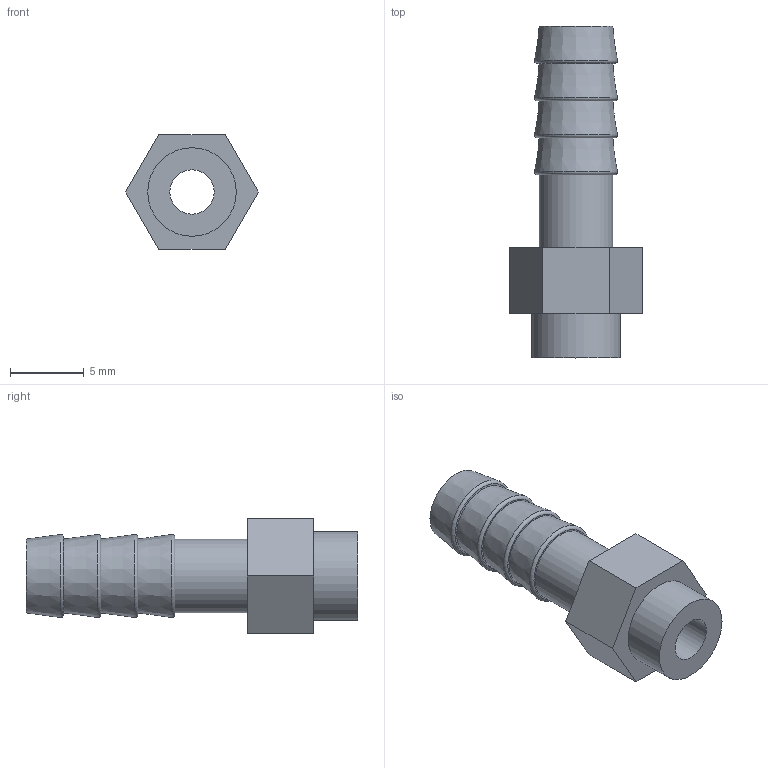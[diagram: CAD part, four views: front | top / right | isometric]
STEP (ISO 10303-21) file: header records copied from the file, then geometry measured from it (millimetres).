
FILE_DESCRIPTION(/* description */ (''),/* implementation_level */ '2;1');
FILE_NAME(/* name */ 'C:\Users\user\Documents\Inventor\Home Ventilator CPAP\Pipe conector.stp',/* time_stamp */ '2020-03-29T22:40:35+02:00',/* author */ ('user'),/* organization */ (''),/* preprocessor_version */ 'ST-DEVELOPER v16.5',/* originating_system */ 'Autodesk Inventor 2017',/* authorisation */ '');
FILE_SCHEMA (('AUTOMOTIVE_DESIGN { 1 0 10303 214 3 1 1 }'));
Length unit declared in the file: millimetre
Products named in the file (1): Pipe conector
Bounding box: 9 x 22.5 x 7.79 mm (x, y, z)
Volume: 484.3 mm3; surface area: 743.2 mm2
Topology: 1 solids, 1 shells, 25 faces, 49 edges, 31 vertices
Faces by surface type: plane 13, cone 5, torus 4, cylinder 3
Full cylindrical faces by diameter (mm): 3 x1, 5 x1, 6 x1
Entity records: 606 total; most frequent: DIRECTION 106, CARTESIAN_POINT 92, ORIENTED_EDGE 72, EDGE_LOOP 44, AXIS2_PLACEMENT_3D 44, EDGE_CURVE 36, VERTEX_POINT 30, FACE_OUTER_BOUND 25
